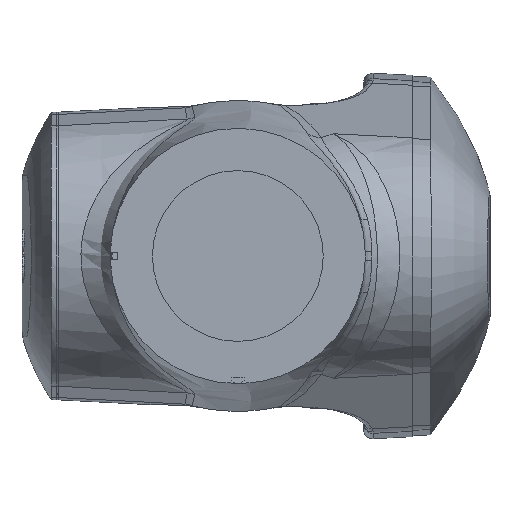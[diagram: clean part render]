
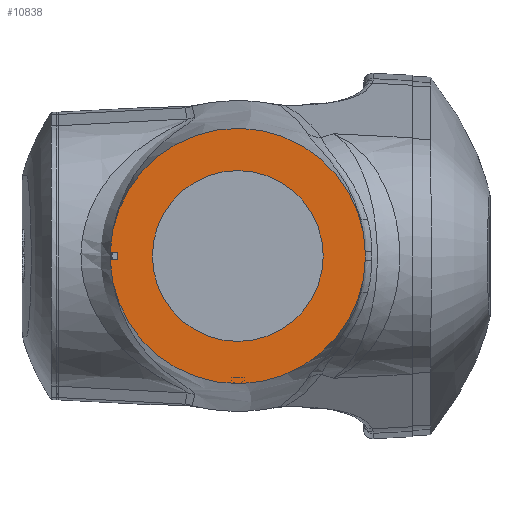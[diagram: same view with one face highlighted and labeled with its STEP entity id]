
A CAD part, left-side view. The second image highlights one B-rep face of the part: STEP entity #10838.
In plain terms, the highlighted planar face has unit normal (-1, 0, 0).
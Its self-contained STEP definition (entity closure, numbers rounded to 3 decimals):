
#658 = CARTESIAN_POINT ( 'NONE',  ( 533., 0., 2525. ) ) ;
#2193 = EDGE_CURVE ( 'NONE', #5735, #23096, #5148, .T. ) ;
#2481 = VECTOR ( 'NONE', #15834, 1000. ) ;
#3064 = VECTOR ( 'NONE', #24705, 1000. ) ;
#4299 = ORIENTED_EDGE ( 'NONE', *, *, #2193, .F. ) ;
#4630 = FACE_BOUND ( 'NONE', #17649, .T. ) ;
#5148 = LINE ( 'NONE', #26297, #26288 ) ;
#5255 = CARTESIAN_POINT ( 'NONE',  ( 533., 0., 2529. ) ) ;
#5735 = VERTEX_POINT ( 'NONE', #19359 ) ;
#5812 = DIRECTION ( 'NONE',  ( 0., -1., 0. ) ) ;
#8086 = EDGE_CURVE ( 'NONE', #5735, #25530, #26320, .T. ) ;
#8578 = CARTESIAN_POINT ( 'NONE',  ( 533., 0., 2521. ) ) ;
#9917 = CARTESIAN_POINT ( 'NONE',  ( 533., 0., 2525. ) ) ;
#9938 = ORIENTED_EDGE ( 'NONE', *, *, #31497, .T. ) ;
#10838 = ADVANCED_FACE ( 'NONE', ( #4630, #15174 ), #12723, .T. ) ;
#11381 = DIRECTION ( 'NONE',  ( -1., 0., 0. ) ) ;
#12723 = PLANE ( 'NONE',  #14346 ) ;
#13251 = DIRECTION ( 'NONE',  ( 0., 0., 1. ) ) ;
#14216 = ORIENTED_EDGE ( 'NONE', *, *, #25443, .F. ) ;
#14346 = AXIS2_PLACEMENT_3D ( 'NONE', #34280, #26786, #5812 ) ;
#14526 = CARTESIAN_POINT ( 'NONE',  ( 533., -95., 2525. ) ) ;
#15174 = FACE_OUTER_BOUND ( 'NONE', #16880, .T. ) ;
#15304 = CARTESIAN_POINT ( 'NONE',  ( 533., 141.944, 2529. ) ) ;
#15834 = DIRECTION ( 'NONE',  ( 0., -1., 0. ) ) ;
#16785 = AXIS2_PLACEMENT_3D ( 'NONE', #658, #11381, #21988 ) ;
#16880 = EDGE_LOOP ( 'NONE', ( #4299, #33363, #9938, #18561 ) ) ;
#17649 = EDGE_LOOP ( 'NONE', ( #14216 ) ) ;
#17900 = DIRECTION ( 'NONE',  ( -1., 0., 0. ) ) ;
#18561 = ORIENTED_EDGE ( 'NONE', *, *, #33747, .T. ) ;
#19359 = CARTESIAN_POINT ( 'NONE',  ( 533., 134., 2521. ) ) ;
#19672 = CIRCLE ( 'NONE', #24639, 95. ) ;
#21988 = DIRECTION ( 'NONE',  ( 0., -1., 0. ) ) ;
#23096 = VERTEX_POINT ( 'NONE', #30648 ) ;
#23423 = CIRCLE ( 'NONE', #16785, 142. ) ;
#23745 = VERTEX_POINT ( 'NONE', #15304 ) ;
#24639 = AXIS2_PLACEMENT_3D ( 'NONE', #9917, #17900, #28495 ) ;
#24705 = DIRECTION ( 'NONE',  ( 0., 1., 0. ) ) ;
#25443 = EDGE_CURVE ( 'NONE', #28282, #28282, #19672, .T. ) ;
#25530 = VERTEX_POINT ( 'NONE', #31420 ) ;
#26288 = VECTOR ( 'NONE', #13251, 1000. ) ;
#26297 = CARTESIAN_POINT ( 'NONE',  ( 533., 134., 2525. ) ) ;
#26320 = LINE ( 'NONE', #8578, #3064 ) ;
#26786 = DIRECTION ( 'NONE',  ( -1., 0., 0. ) ) ;
#28282 = VERTEX_POINT ( 'NONE', #14526 ) ;
#28495 = DIRECTION ( 'NONE',  ( 0., -1., 0. ) ) ;
#29026 = LINE ( 'NONE', #5255, #2481 ) ;
#30648 = CARTESIAN_POINT ( 'NONE',  ( 533., 134., 2529. ) ) ;
#31420 = CARTESIAN_POINT ( 'NONE',  ( 533., 141.944, 2521. ) ) ;
#31497 = EDGE_CURVE ( 'NONE', #25530, #23745, #23423, .T. ) ;
#33363 = ORIENTED_EDGE ( 'NONE', *, *, #8086, .T. ) ;
#33747 = EDGE_CURVE ( 'NONE', #23745, #23096, #29026, .T. ) ;
#34280 = CARTESIAN_POINT ( 'NONE',  ( 533., 0., 2525. ) ) ;
